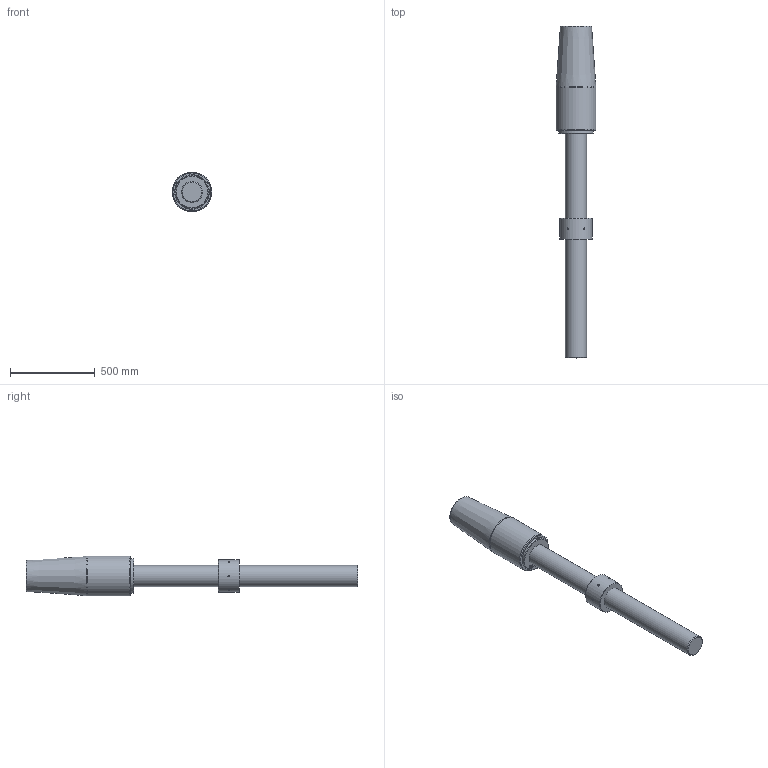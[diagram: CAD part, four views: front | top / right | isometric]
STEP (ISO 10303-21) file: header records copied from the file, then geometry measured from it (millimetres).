
FILE_DESCRIPTION(/* description */ (''),/* implementation_level */ '2;1');
FILE_NAME(/* name */ 'D:\Clienti\Redaelli (inventor)\CYB\STEP\Arrangement\CYB080 52 061 0.stp',/* time_stamp */ '2021-05-08T14:48:31+02:00',/* author */ ('fabri'),/* organization */ (''),/* preprocessor_version */ 'ST-DEVELOPER v16.13',/* originating_system */ 'Autodesk Inventor 2018',/* authorisation */ '');
FILE_SCHEMA (('CONFIG_CONTROL_DESIGN','AUTOMOTIVE_DESIGN { 1 0 10303 214 3 1 1 }'));
Length unit declared in the file: millimetre
Products named in the file (5): CYB080 52 061 0; RNT052 41 051 0_ROD; RNT052 41 051 0_ROD_1; CCY021-51-061-0_BUSH; CCY021-51-061-0
Assembly tree (4 placements, depth 2):
  CYB080 52 061 0
    RNT052 41 051 0_ROD
    RNT052 41 051 0_ROD_1
    CCY021-51-061-0_BUSH
    CCY021-51-061-0
Bounding box: 235 x 1960 x 235 mm (x, y, z)
Volume: 46689172.3 mm3; surface area: 1473645.8 mm2
Topology: 4 solids, 4 shells, 711 faces, 1884 edges, 1251 vertices
Faces by surface type: bspline 408, plane 265, cylinder 18, cone 16, torus 4
Full cylindrical faces by diameter (mm): 10 x6, 10.106 x3, 118.505 x2, 125 x1, 126 x1, 170 x1, 180 x1, 190 x1, 205 x1, 235 x1
Entity records: 24132 total; most frequent: CARTESIAN_POINT 9325, ORIENTED_EDGE 3670, EDGE_CURVE 1835, DIRECTION 1675, VERTEX_POINT 1241, LINE 965, VECTOR 965, B_SPLINE_CURVE_WITH_KNOTS 826
